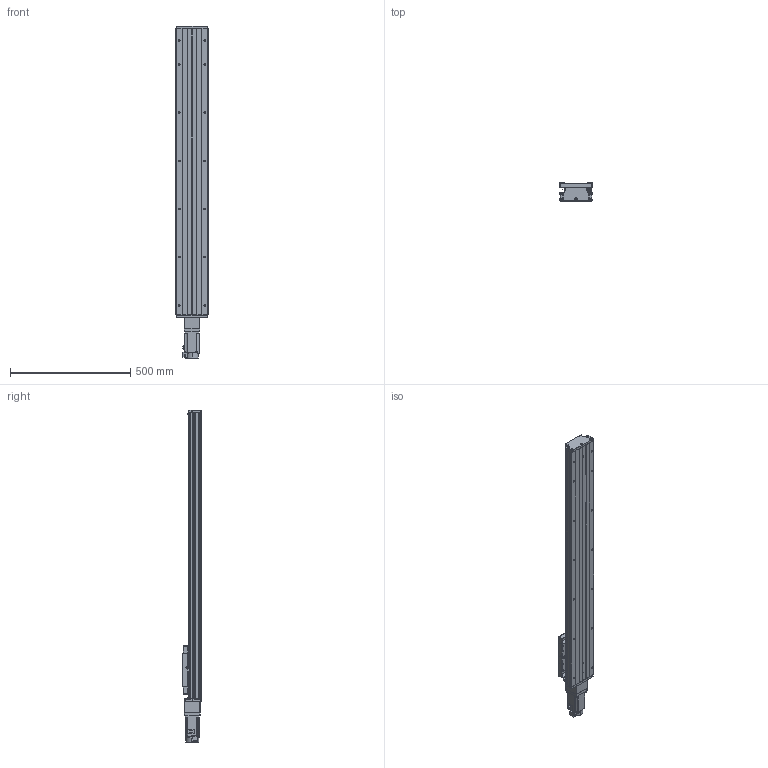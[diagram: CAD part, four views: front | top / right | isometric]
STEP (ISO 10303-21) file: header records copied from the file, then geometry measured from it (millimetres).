
FILE_DESCRIPTION (( 'STEP AP203' ), '1' );
FILE_NAME ('GTH14-950-BC-M40-C4.step', '2023-06-30T08:36:08', ( '微软用户' ), ( '微软中国' ), 'SwSTEP 2.0', 'SolidWorks 2020', '' );
FILE_SCHEMA (( 'CONFIG_CONTROL_DESIGN' ));
Length unit declared in the file: millimetre
Products named in the file (20): CTHA86-006-1_M40; GTH14-002_GTH14-002; EE_SX911P_R; CTHA86-013; GTH14-004; CTHA60-016; CTHA86-027-1; GTH14-005; GBT 70.1-M3℅5; HG-KN43J-S100; GB1155-6X6; GBT77-2000 M3×3; GBT 70.3-M3℅8; GBT70.1 M5℅16; GTH14-031; GTH14-950-BC-M40-C4; GBT 70.2-M3¡Á5_M3¡Á6; す晦芛蹟隊 M3℅5; GTH14-001_950; CTHA60-017
Assembly tree (57 placements, depth 2):
  GTH14-950-BC-M40-C4
    GTH14-001_950
    GTH14-002_GTH14-002
    GTH14-004
    GTH14-005
    GB1155-6X6  x2
    GBT70.1 M5℅16  x10
    GBT 70.2-M3¡Á5_M3¡Á6  x8
    CTHA60-017  x3
    EE_SX911P_R  x3
    CTHA60-016  x2
    GBT 70.1-M3℅5  x6
    GBT77-2000 M3×3  x6
    GTH14-031
    す晦芛蹟隊 M3℅5  x6
    CTHA86-006-1_M40
    CTHA86-013
    CTHA86-027-1
    HG-KN43J-S100
    GBT 70.3-M3℅8  x2
Bounding box: 135 x 78 x 1378.7 mm (x, y, z)
Volume: 6809025.4 mm3; surface area: 1052262.9 mm2
Topology: 60 solids, 60 shells, 2434 faces, 5805 edges, 3586 vertices
Faces by surface type: plane 1306, cylinder 664, cone 304, torus 120, sphere 20, bspline 20
Entity records: 45036 total; most frequent: CARTESIAN_POINT 9997, DIRECTION 6636, ORIENTED_EDGE 6494, EDGE_CURVE 3247, AXIS2_PLACEMENT_3D 2269, LINE 2098, VECTOR 2098, VERTEX_POINT 2054
